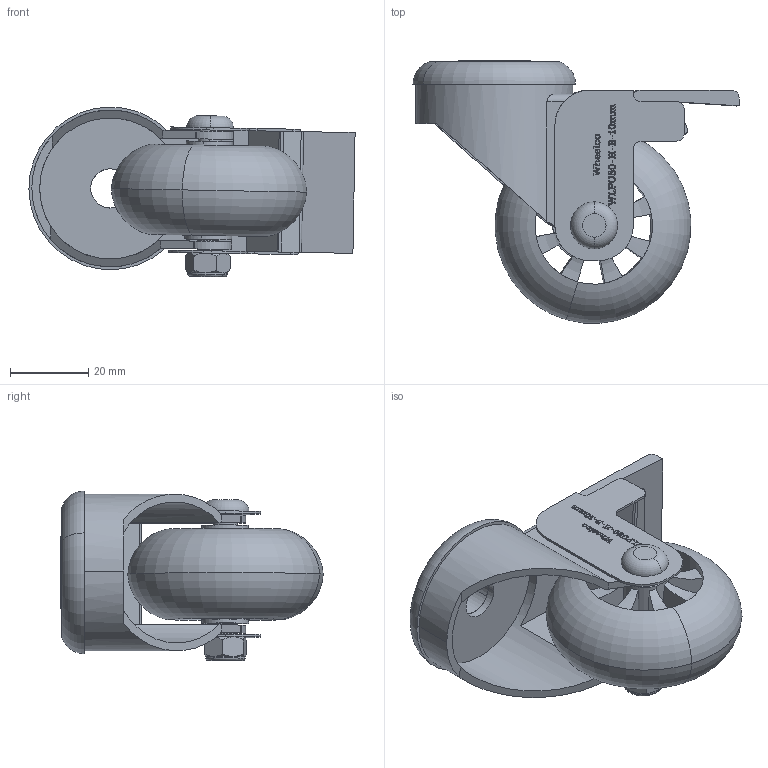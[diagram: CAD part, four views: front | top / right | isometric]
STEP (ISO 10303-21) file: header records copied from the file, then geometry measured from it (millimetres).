
FILE_DESCRIPTION (( 'STEP AP214' ), '1' );
FILE_NAME ('WLPU50-H-B-10MM.step', '2024-01-18T00:21:56', ( '' ), ( '' ), 'SwSTEP 2.0', 'SolidWorks 2022', '' );
FILE_SCHEMA (( 'AUTOMOTIVE_DESIGN' ));
Length unit declared in the file: millimetre
Products named in the file (7): 41.5 CAP; WL50-H-B; M6 NUT; WLPU50; WLPU50-H-B-10MM; BREAK BRACKET; WL bolt 40mm-6mm dia
Assembly tree (6 placements, depth 2):
  WLPU50-H-B-10MM
    WL50-H-B
    BREAK BRACKET
    M6 NUT
    WLPU50
    41.5 CAP
    WL bolt 40mm-6mm dia
Bounding box: 83.18 x 66.94 x 43.32 mm (x, y, z)
Volume: 49525.8 mm3; surface area: 31955.3 mm2
Topology: 7 solids, 7 shells, 771 faces, 2101 edges, 1380 vertices
Faces by surface type: plane 435, bspline 187, cylinder 97, torus 36, cone 14, sphere 2
Entity records: 36932 total; most frequent: CARTESIAN_POINT 18239, ORIENTED_EDGE 4198, DIRECTION 3053, EDGE_CURVE 2099, VECTOR 1381, LINE 1381, VERTEX_POINT 1380, EDGE_LOOP 841
